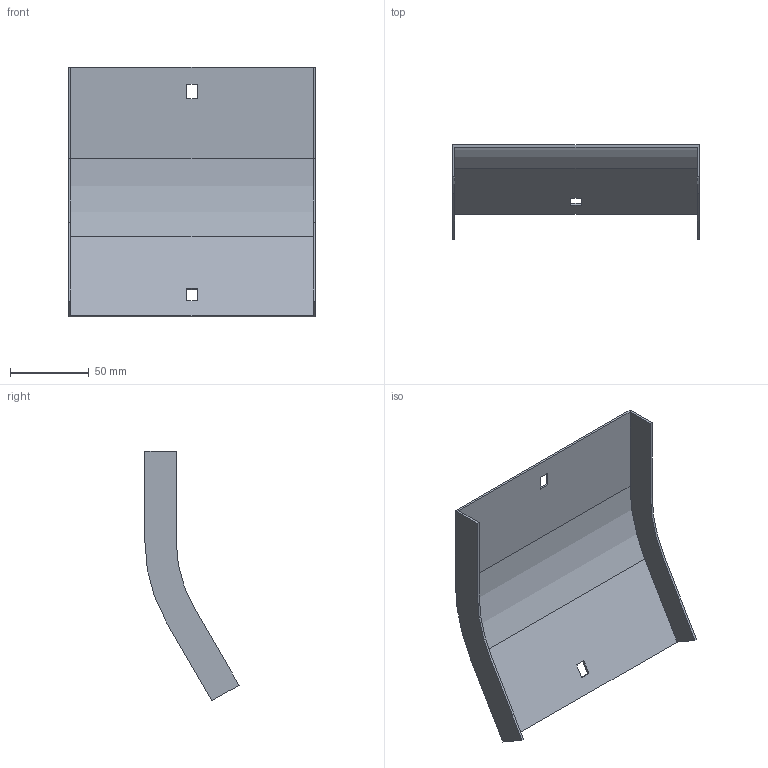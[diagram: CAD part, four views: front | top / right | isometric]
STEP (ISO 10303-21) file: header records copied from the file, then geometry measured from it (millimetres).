
FILE_DESCRIPTION (( 'STEP AP214' ), '1' );
FILE_NAME ('35G1D150.step', '2025-02-21T12:40:36', ( '' ), ( '' ), 'SwSTEP 2.0', 'SolidWorks 2023', '' );
FILE_SCHEMA (( 'AUTOMOTIVE_DESIGN' ));
Length unit declared in the file: millimetre
Products named in the file (1): 35G1D150
Bounding box: 157 x 59.87 x 158.79 mm (x, y, z)
Volume: 48582.7 mm3; surface area: 65928.5 mm2
Topology: 1 solids, 1 shells, 26 faces, 72 edges, 48 vertices
Faces by surface type: plane 22, cylinder 4
Entity records: 855 total; most frequent: CARTESIAN_POINT 147, ORIENTED_EDGE 144, DIRECTION 134, EDGE_CURVE 72, LINE 64, VECTOR 64, VERTEX_POINT 48, AXIS2_PLACEMENT_3D 35
